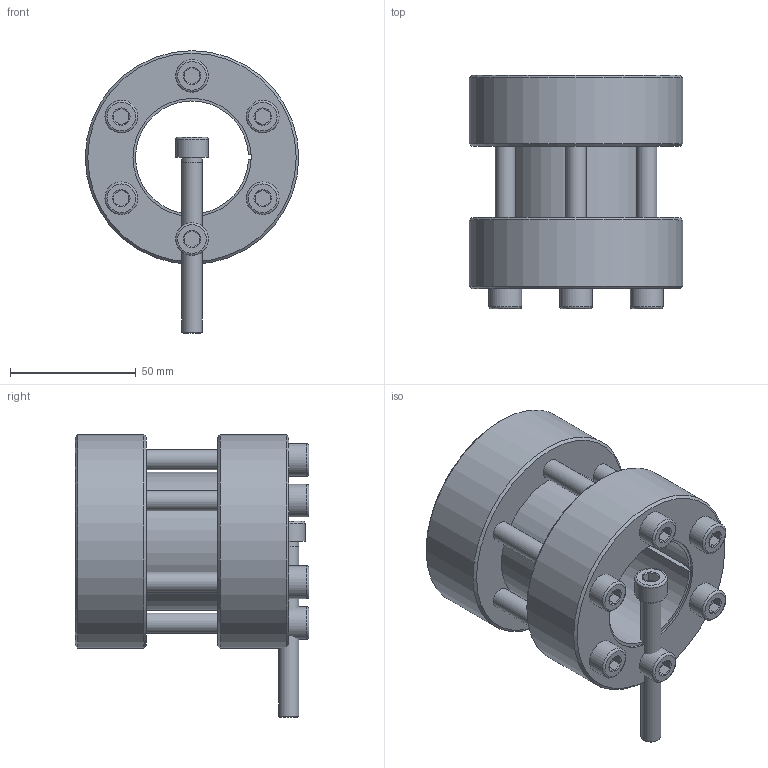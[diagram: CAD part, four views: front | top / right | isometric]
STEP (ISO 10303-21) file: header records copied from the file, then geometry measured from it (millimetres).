
FILE_DESCRIPTION( ( 'Unknown' ), '1' );
FILE_NAME( 'C:/Dokumente und Einstellungen/Sven/Desktop/homepage/cad - homepage/KBS95/KBS 95 - 45 x 85.stp', 'Unknown', ( 'Unknown' ), ( 'Unknown' ), 'XStep 1.0', 'Unknown', ' ' );
FILE_SCHEMA( ( 'automotive_design' ) );
Length unit declared in the file: millimetre
Products named in the file (3): Assem1; KBS 95 - 45 x 85; ISO EN DIN 4762 M8x70
Bounding box: 85 x 93 x 112.5 mm (x, y, z)
Volume: 501393.9 mm3; surface area: 125180.9 mm2
Topology: 9 solids, 9 shells, 239 faces, 499 edges, 306 vertices
Faces by surface type: plane 104, cone 61, cylinder 60, torus 14
Full cylindrical faces by diameter (mm): 7 x7, 8 x38, 13 x7, 85 x4
Entity records: 1850 total; most frequent: CARTESIAN_POINT 317, DIRECTION 280, ORIENTED_EDGE 206, AXIS2_PLACEMENT_3D 122, EDGE_LOOP 114, EDGE_CURVE 103, VERTEX_POINT 79, FACE_OUTER_BOUND 77
